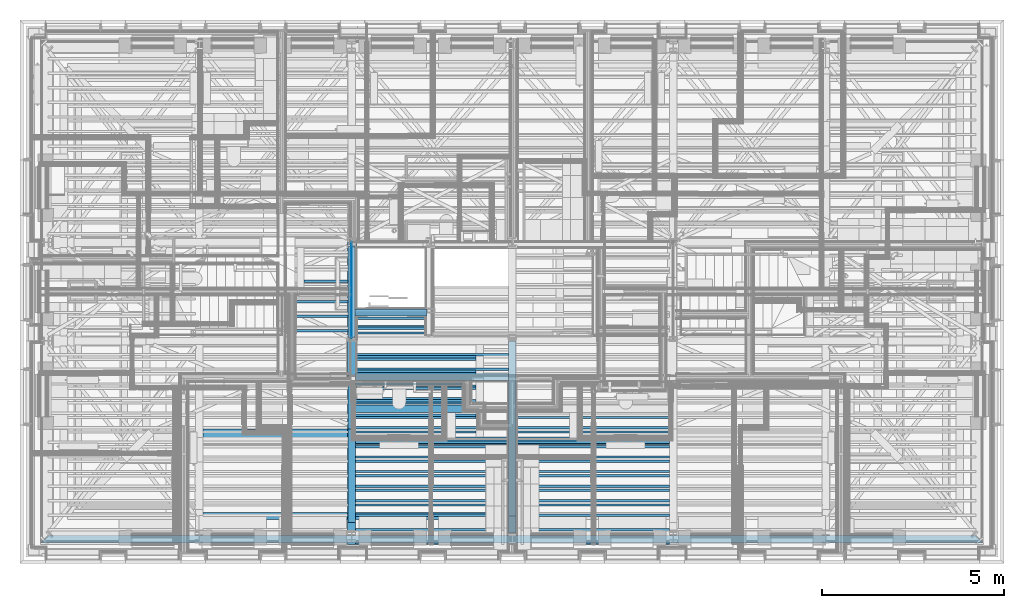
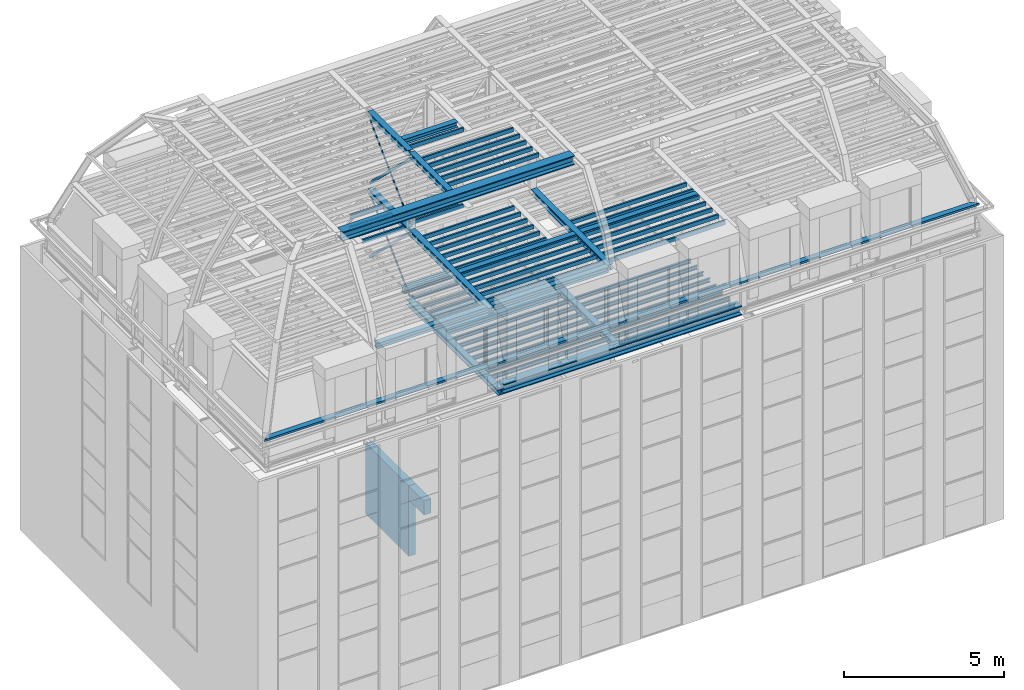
# One storey, part 5 of 183: 75 beams.
"""IFC2X3 building model written with IfcOpenShell, lengths in metres."""

from ifc_helpers import new_model, entity, si_unit, converted_unit, derived_unit, money_unit, direction, frame, frame_2d, origin_with_axes, place, context, subcontext, project, spatial, polyline, rectangle, outline, extrude, clip, halfspace, material, type_object, element, save


model = new_model("IFC2X3")

# Units and contexts
model_context = context("Model", 3, precision=1e-05, world=origin_with_axes(), true_north=direction((0.0, 1.0)))
body_context = subcontext(model_context, "Body", "Model", "MODEL_VIEW", scale=1.0)
ifc_project = project(units=[si_unit("LENGTHUNIT", "METRE"), si_unit("AREAUNIT", "SQUARE_METRE"), si_unit("VOLUMEUNIT", "CUBIC_METRE"), si_unit("ABSORBEDDOSEUNIT", "GRAY"), si_unit("AMOUNTOFSUBSTANCEUNIT", "MOLE"), si_unit("DOSEEQUIVALENTUNIT", "SIEVERT"), si_unit("ELECTRICCAPACITANCEUNIT", "FARAD"), si_unit("ELECTRICCHARGEUNIT", "COULOMB"), si_unit("ELECTRICCONDUCTANCEUNIT", "SIEMENS"), si_unit("ELECTRICCURRENTUNIT", "AMPERE"), si_unit("ELECTRICRESISTANCEUNIT", "OHM"), si_unit("ELECTRICVOLTAGEUNIT", "VOLT"), si_unit("ENERGYUNIT", "JOULE"), si_unit("FORCEUNIT", "NEWTON"), si_unit("FREQUENCYUNIT", "HERTZ"), si_unit("ILLUMINANCEUNIT", "LUX"), si_unit("INDUCTANCEUNIT", "HENRY"), si_unit("LUMINOUSFLUXUNIT", "LUMEN"), si_unit("LUMINOUSINTENSITYUNIT", "CANDELA"), si_unit("MAGNETICFLUXDENSITYUNIT", "TESLA"), si_unit("MAGNETICFLUXUNIT", "WEBER"), si_unit("MASSUNIT", "GRAM"), converted_unit("PLANEANGLEUNIT", "degree", entity("IfcReal", 0.0174532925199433), si_unit("PLANEANGLEUNIT", "RADIAN"), dimensions=[0, 0, 0, 0, 0, 0, 0]), si_unit("POWERUNIT", "WATT"), si_unit("PRESSUREUNIT", "PASCAL"), si_unit("RADIOACTIVITYUNIT", "BECQUEREL"), si_unit("SOLIDANGLEUNIT", "STERADIAN"), si_unit("THERMODYNAMICTEMPERATUREUNIT", "KELVIN"), si_unit("TIMEUNIT", "SECOND"), derived_unit("ACCELERATIONUNIT", [(si_unit("LENGTHUNIT", "METRE"), 1), (si_unit("TIMEUNIT", "SECOND"), -2)]), derived_unit("ANGULARVELOCITYUNIT", [(converted_unit("PLANEANGLEUNIT", "degree", entity("IfcReal", 0.0174532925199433), si_unit("PLANEANGLEUNIT", "RADIAN"), dimensions=[0, 0, 0, 0, 0, 0, 0]), 1), (si_unit("TIMEUNIT", "SECOND"), -1)]), derived_unit("CURVATUREUNIT", [(converted_unit("PLANEANGLEUNIT", "degree", entity("IfcReal", 0.0174532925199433), si_unit("PLANEANGLEUNIT", "RADIAN"), dimensions=[0, 0, 0, 0, 0, 0, 0]), 1), (si_unit("LENGTHUNIT", "METRE"), -1)]), derived_unit("DYNAMICVISCOSITYUNIT", [(si_unit("PRESSUREUNIT", "PASCAL"), 1), (si_unit("TIMEUNIT", "SECOND"), 1)]), derived_unit("HEATFLUXDENSITYUNIT", [(si_unit("POWERUNIT", "WATT"), 1), (si_unit("LENGTHUNIT", "METRE"), -2)]), derived_unit("HEATINGVALUEUNIT", [(si_unit("ENERGYUNIT", "JOULE"), 1), (si_unit("MASSUNIT", "GRAM"), -1)]), derived_unit("INTEGERCOUNTRATEUNIT", [(si_unit("TIMEUNIT", "SECOND"), -1)]), derived_unit("IONCONCENTRATIONUNIT", [(si_unit("MASSUNIT", "GRAM"), 1), (si_unit("VOLUMEUNIT", "CUBIC_METRE"), -1)]), derived_unit("ISOTHERMALMOISTURECAPACITYUNIT", [(si_unit("VOLUMEUNIT", "CUBIC_METRE"), 1), (si_unit("MASSUNIT", "GRAM"), -1)]), derived_unit("KINEMATICVISCOSITYUNIT", [(si_unit("AREAUNIT", "SQUARE_METRE"), 1), (si_unit("TIMEUNIT", "SECOND"), -1)]), derived_unit("LINEARFORCEUNIT", [(si_unit("FORCEUNIT", "NEWTON"), 1), (si_unit("LENGTHUNIT", "METRE"), -1)]), derived_unit("LINEARMOMENTUNIT", [(si_unit("FORCEUNIT", "NEWTON"), 1), (si_unit("LENGTHUNIT", "METRE"), -1)]), derived_unit("LINEARSTIFFNESSUNIT", [(si_unit("FORCEUNIT", "NEWTON"), 1), (si_unit("LENGTHUNIT", "METRE"), -1)]), derived_unit("LINEARVELOCITYUNIT", [(si_unit("LENGTHUNIT", "METRE"), 1), (si_unit("TIMEUNIT", "SECOND"), -1)]), derived_unit("LUMINOUSINTENSITYDISTRIBUTIONUNIT", [(si_unit("LUMINOUSINTENSITYUNIT", "CANDELA"), 1), (si_unit("LUMINOUSFLUXUNIT", "LUMEN"), -1)]), derived_unit("MASSDENSITYUNIT", [(si_unit("MASSUNIT", "GRAM"), 1), (si_unit("VOLUMEUNIT", "CUBIC_METRE"), -1)]), derived_unit("MASSFLOWRATEUNIT", [(si_unit("MASSUNIT", "GRAM"), 1), (si_unit("TIMEUNIT", "SECOND"), -1)]), derived_unit("MASSPERLENGTHUNIT", [(si_unit("MASSUNIT", "GRAM"), 1), (si_unit("LENGTHUNIT", "METRE"), -1)]), derived_unit("MODULUSOFELASTICITYUNIT", [(si_unit("FORCEUNIT", "NEWTON"), 1), (si_unit("AREAUNIT", "SQUARE_METRE"), -1)]), derived_unit("MODULUSOFLINEARSUBGRADEREACTIONUNIT", [(si_unit("FORCEUNIT", "NEWTON"), 1), (si_unit("LENGTHUNIT", "METRE"), -2)]), derived_unit("MODULUSOFROTATIONALSUBGRADEREACTIONUNIT", [(si_unit("FORCEUNIT", "NEWTON"), 1), (si_unit("LENGTHUNIT", "METRE"), 1)]), derived_unit("MODULUSOFSUBGRADEREACTIONUNIT", [(si_unit("FORCEUNIT", "NEWTON"), 1), (si_unit("VOLUMEUNIT", "CUBIC_METRE"), -1)]), derived_unit("MOISTUREDIFFUSIVITYUNIT", [(si_unit("VOLUMEUNIT", "CUBIC_METRE"), 1), (si_unit("TIMEUNIT", "SECOND"), -1)]), derived_unit("MOLECULARWEIGHTUNIT", [(si_unit("MASSUNIT", "GRAM"), 1), (si_unit("AMOUNTOFSUBSTANCEUNIT", "MOLE"), -1)]), derived_unit("PLANARFORCEUNIT", [(si_unit("FORCEUNIT", "NEWTON"), 1), (si_unit("LENGTHUNIT", "METRE"), -2)]), derived_unit("ROTATIONALFREQUENCYUNIT", [(si_unit("TIMEUNIT", "SECOND"), -1)]), derived_unit("ROTATIONALMASSUNIT", [(si_unit("MASSUNIT", "GRAM"), 1), (si_unit("LENGTHUNIT", "METRE"), 2)]), derived_unit("ROTATIONALSTIFFNESSUNIT", [(si_unit("FORCEUNIT", "NEWTON"), 1), (si_unit("LENGTHUNIT", "METRE"), 1), (converted_unit("PLANEANGLEUNIT", "degree", entity("IfcReal", 0.0174532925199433), si_unit("PLANEANGLEUNIT", "RADIAN"), dimensions=[0, 0, 0, 0, 0, 0, 0]), -1)]), derived_unit("SECTIONAREAINTEGRALUNIT", [(si_unit("LENGTHUNIT", "METRE"), 5)]), derived_unit("SECTIONMODULUSUNIT", [(si_unit("LENGTHUNIT", "METRE"), 3)]), derived_unit("SHEARMODULUSUNIT", [(si_unit("FORCEUNIT", "NEWTON"), 1), (si_unit("AREAUNIT", "SQUARE_METRE"), -1)]), derived_unit("SOUNDPOWERUNIT", [(si_unit("ENERGYUNIT", "JOULE"), 1), (si_unit("TIMEUNIT", "SECOND"), -1)]), derived_unit("SPECIFICHEATCAPACITYUNIT", [(si_unit("FORCEUNIT", "NEWTON"), 1), (si_unit("MASSUNIT", "GRAM"), -1), (si_unit("THERMODYNAMICTEMPERATUREUNIT", "KELVIN"), -1)]), derived_unit("TEMPERATUREGRADIENTUNIT", [(si_unit("THERMODYNAMICTEMPERATUREUNIT", "KELVIN"), 1), (si_unit("LENGTHUNIT", "METRE"), -1)]), derived_unit("THERMALADMITTANCEUNIT", [(si_unit("POWERUNIT", "WATT"), 1), (si_unit("AREAUNIT", "SQUARE_METRE"), -1), (si_unit("THERMODYNAMICTEMPERATUREUNIT", "KELVIN"), -1)]), derived_unit("THERMALCONDUCTANCEUNIT", [(si_unit("POWERUNIT", "WATT"), 1), (si_unit("LENGTHUNIT", "METRE"), -1), (si_unit("THERMODYNAMICTEMPERATUREUNIT", "KELVIN"), -1)]), derived_unit("THERMALEXPANSIONCOEFFICIENTUNIT", [(si_unit("THERMODYNAMICTEMPERATUREUNIT", "KELVIN"), -1)]), derived_unit("THERMALRESISTANCEUNIT", [(si_unit("AREAUNIT", "SQUARE_METRE"), 1), (si_unit("POWERUNIT", "WATT"), -1)]), derived_unit("THERMALTRANSMITTANCEUNIT", [(si_unit("POWERUNIT", "WATT"), 1), (si_unit("AREAUNIT", "SQUARE_METRE"), -1), (si_unit("THERMODYNAMICTEMPERATUREUNIT", "KELVIN"), -1)]), derived_unit("TORQUEUNIT", [(si_unit("FORCEUNIT", "NEWTON"), 1), (si_unit("LENGTHUNIT", "METRE"), 1)]), derived_unit("VAPORPERMEABILITYUNIT", [(si_unit("MASSUNIT", "GRAM"), 1), (si_unit("TIMEUNIT", "SECOND"), -1)]), derived_unit("VOLUMETRICFLOWRATEUNIT", [(si_unit("VOLUMEUNIT", "CUBIC_METRE"), 1), (si_unit("TIMEUNIT", "SECOND"), -1)]), derived_unit("WARPINGCONSTANTUNIT", [(si_unit("LENGTHUNIT", "METRE"), 6)]), derived_unit("WARPINGMOMENTUNIT", [(si_unit("FORCEUNIT", "NEWTON"), 1), (si_unit("LENGTHUNIT", "METRE"), 2)]), money_unit("GBP")], contexts=[model_context])

# Site, building, storey
site_placement = place(None, origin_with_axes())
site = spatial("IfcSite", under=ifc_project, at=site_placement, Name="Site", CompositionType="ELEMENT")
building_placement = place(site_placement, origin_with_axes())
building = spatial("IfcBuilding", under=site, at=building_placement, Name="Building01", CompositionType="ELEMENT")
storey_placement = place(building_placement, frame((0.0, 0.0, 5.15), z_axis=(0.0, 0.0, 1.0), x_axis=(1.0, 0.0, 0.0)))
storey = spatial("IfcBuildingStorey", under=building, at=storey_placement, Name="1F", CompositionType="ELEMENT", Elevation=5.15)

# Beams
ifc_material_1 = material(Name="A_BSUK_Beams_Steel")
beam_type_1 = type_object("IfcBeamType", Name="A-Beams-Steel", PredefinedType="BEAM")
beam_1_placement = place(storey_placement, frame((8.98545, 6.2592, 9.5078), z_axis=(0.0, -1.0, 0.0), x_axis=(1.0, 0.0, 0.0)))
element("IfcBeam", 1, at=beam_1_placement, inside=storey, type_object=beam_type_1, material=ifc_material_1, Name="4F", ObjectType="A-Beams-Steel", context=body_context, shape_type="SweptSolid", body=[
    extrude(outline(polyline([(0.2091, 0.0), (0.2091, 0.0205), (0.1109, 0.0205), (0.1109, 0.2017), (0.2091, 0.2017), (0.2091, 0.2222), (0.0, 0.2222), (0.0, 0.2017), (0.0982, 0.2017), (0.0982, 0.0205), (0.0, 0.0205), (0.0, 0.0), (0.2091, 0.0)])), origin_with_axes(), (0.0, 0.0, 1.0), 5.7392),
])
beam_2_placement = place(storey_placement, frame((13.39545, 5.9408, 9.5078), z_axis=(0.0, -1.0, 0.0), x_axis=(1.0, 0.0, 0.0)))
element("IfcBeam", 2, at=beam_2_placement, inside=storey, type_object=beam_type_1, material=ifc_material_1, Name="4F", ObjectType="A-Beams-Steel", context=body_context, shape_type="SweptSolid", body=[
    extrude(outline(polyline([(0.2091, 0.0), (0.2091, 0.0205), (0.1109, 0.0205), (0.1109, 0.2017), (0.2091, 0.2017), (0.2091, 0.2222), (0.0, 0.2222), (0.0, 0.2017), (0.0982, 0.2017), (0.0982, 0.0205), (0.0, 0.0205), (0.0, 0.0), (0.2091, 0.0)])), origin_with_axes(), (0.0, 0.0, 1.0), 5.1024),
])
beam_3_placement = place(storey_placement, frame((9.1918, 6.7782, 9.5268), z_axis=(1.0, 0.0, 0.0), x_axis=(0.0, 1.0, 0.0)))
element("IfcBeam", 3, at=beam_3_placement, inside=storey, type_object=beam_type_1, material=ifc_material_1, Name="4F", ObjectType="A-Beams-Steel", context=body_context, shape_type="SweptSolid", body=[
    extrude(outline(polyline([(0.2036, 0.0), (0.2036, 0.011), (0.1054, 0.011), (0.1054, 0.1922), (0.2036, 0.1922), (0.2036, 0.2032), (0.0, 0.2032), (0.0, 0.1922), (0.0982, 0.1922), (0.0982, 0.011), (0.0, 0.011), (0.0, 0.0), (0.2036, 0.0)])), origin_with_axes(), (0.0, 0.0, 1.0), 1.9664),
])
for number, where, z_axis, x_axis, name in (
    (4, (9.19455, 5.0182, 9.5268), (1.0, 0.0, 0.0), (0.0, 1.0, 0.0), "4F"),
    (5, (9.19455, 4.1382, 9.5268), (1.0, 0.0, 0.0), (0.0, 1.0, 0.0), "4F"),
):
    element("IfcBeam", number, at=place(storey_placement, frame(where, z_axis=z_axis, x_axis=x_axis)), inside=storey, type_object=beam_type_1, material=ifc_material_1, Name=name, ObjectType="A-Beams-Steel", context=body_context, shape_type="SweptSolid", body=[
        extrude(outline(polyline([(0.2036, 0.0), (0.2036, 0.011), (0.1054, 0.011), (0.1054, 0.1922), (0.2036, 0.1922), (0.2036, 0.2032), (0.0, 0.2032), (0.0, 0.1922), (0.0982, 0.1922), (0.0982, 0.011), (0.0, 0.011), (0.0, 0.0), (0.2036, 0.0)])), origin_with_axes(), (0.0, 0.0, 1.0), 4.2009),
    ])
beam_4_placement = place(storey_placement, frame((9.19455, 0.52, 9.5078), z_axis=(1.0, 0.0, 0.0), x_axis=(0.0, 1.0, 0.0)))
element("IfcBeam", 6, at=beam_4_placement, inside=storey, type_object=beam_type_1, material=ifc_material_1, Name="4F", ObjectType="A-Beams-Steel", context=body_context, shape_type="SweptSolid", body=[
    extrude(outline(polyline([(0.3184, 0.0), (0.3184, 0.0377), (0.1707, 0.0377), (0.1707, 0.3148), (0.3184, 0.3148), (0.3184, 0.3525), (0.0, 0.3525), (0.0, 0.3148), (0.1477, 0.3148), (0.1477, 0.0377), (0.0, 0.0377), (0.0, 0.0), (0.3184, 0.0)])), origin_with_axes(), (0.0, 0.0, 1.0), 8.6109),
])
beam_5_placement = place(storey_placement, frame((5.0132, 1.1982, 12.2768), z_axis=(1.0, 0.0, 0.0), x_axis=(0.0, 1.0, 0.0)))
element("IfcBeam", 7, at=beam_5_placement, inside=storey, type_object=beam_type_1, material=ifc_material_1, Name="5F", ObjectType="A-Beams-Steel", context=body_context, shape_type="SweptSolid", body=[
    extrude(outline(polyline([(0.2036, 0.0), (0.2036, 0.011), (0.1054, 0.011), (0.1054, 0.1922), (0.2036, 0.1922), (0.2036, 0.2032), (0.0, 0.2032), (0.0, 0.1922), (0.0982, 0.1922), (0.0982, 0.011), (0.0, 0.011), (0.0, 0.0), (0.2036, 0.0)])), origin_with_axes(), (0.0, 0.0, 1.0), 8.3836),
])
beam_6_placement = place(storey_placement, frame((8.9868, 6.1, 12.2642), z_axis=(0.0, -1.0, 0.0), x_axis=(1.0, 0.0, 0.0)))
element("IfcBeam", 8, at=beam_6_placement, inside=storey, type_object=beam_type_1, material=ifc_material_1, Name="5F", ObjectType="A-Beams-Steel", context=body_context, shape_type="SweptSolid", body=[
    extrude(outline(polyline([(0.2064, 0.0), (0.2064, 0.0173), (0.1082, 0.0173), (0.1082, 0.1985), (0.2064, 0.1985), (0.2064, 0.2158), (0.0, 0.2158), (0.0, 0.1985), (0.0982, 0.1985), (0.0982, 0.0173), (0.0, 0.0173), (0.0, 0.0), (0.2064, 0.0)])), origin_with_axes(), (0.0, 0.0, 1.0), 4.980311),
])
beam_7_placement = place(storey_placement, frame((13.3968, 6.1, 12.2642), z_axis=(0.0, -1.0, 0.0), x_axis=(1.0, 0.0, 0.0)))
element("IfcBeam", 9, at=beam_7_placement, inside=storey, type_object=beam_type_1, material=ifc_material_1, Name="5F", ObjectType="A-Beams-Steel", context=body_context, shape_type="SweptSolid", body=[
    extrude(outline(polyline([(0.2064, 0.0), (0.2064, 0.0173), (0.1082, 0.0173), (0.1082, 0.1985), (0.2064, 0.1985), (0.2064, 0.2158), (0.0, 0.2158), (0.0, 0.1985), (0.0982, 0.1985), (0.0982, 0.0173), (0.0, 0.0173), (0.0, 0.0), (0.2064, 0.0)])), origin_with_axes(), (0.0, 0.0, 1.0), 4.7982),
])
beam_8_placement = place(storey_placement, frame((8.9882, 8.6857, 12.2768), z_axis=(0.0, -1.0, 0.0), x_axis=(1.0, 0.0, 0.0)))
element("IfcBeam", 10, at=beam_8_placement, inside=storey, type_object=beam_type_1, material=ifc_material_1, Name="5F", ObjectType="A-Beams-Steel", context=body_context, shape_type="SweptSolid", body=[
    extrude(outline(polyline([(0.2036, 0.0), (0.2036, 0.011), (0.1054, 0.011), (0.1054, 0.1922), (0.2036, 0.1922), (0.2036, 0.2032), (0.0, 0.2032), (0.0, 0.1922), (0.0982, 0.1922), (0.0982, 0.011), (0.0, 0.011), (0.0, 0.0), (0.2036, 0.0)])), origin_with_axes(), (0.0, 0.0, 1.0), 2.4857),
])
beam_9_placement = place(storey_placement, frame((9.1918, 6.7782, 12.2768), z_axis=(1.0, 0.0, 0.0), x_axis=(0.0, 1.0, 0.0)))
element("IfcBeam", 11, at=beam_9_placement, inside=storey, type_object=beam_type_1, material=ifc_material_1, Name="5F", ObjectType="A-Beams-Steel", context=body_context, shape_type="SweptSolid", body=[
    extrude(outline(polyline([(0.2036, 0.0), (0.2036, 0.011), (0.1054, 0.011), (0.1054, 0.1922), (0.2036, 0.1922), (0.2036, 0.2032), (0.0, 0.2032), (0.0, 0.1922), (0.0982, 0.1922), (0.0982, 0.011), (0.0, 0.011), (0.0, 0.0), (0.2036, 0.0)])), origin_with_axes(), (0.0, 0.0, 1.0), 1.9682),
])
beam_10_placement = place(storey_placement, frame((13.6032, 3.2582, 12.2768), z_axis=(1.0, 0.0, 0.0), x_axis=(0.0, 1.0, 0.0)))
element("IfcBeam", 12, at=beam_10_placement, inside=storey, type_object=beam_type_1, material=ifc_material_1, Name="5F", ObjectType="A-Beams-Steel", context=body_context, shape_type="SweptSolid", body=[
    extrude(outline(polyline([(0.2036, 0.0), (0.2036, 0.011), (0.1054, 0.011), (0.1054, 0.1922), (0.2036, 0.1922), (0.2036, 0.2032), (0.0, 0.2032), (0.0, 0.1922), (0.0982, 0.1922), (0.0982, 0.011), (0.0, 0.011), (0.0, 0.0), (0.2036, 0.0)])), origin_with_axes(), (0.0, 0.0, 1.0), 4.2036),
])
beam_11_placement = place(storey_placement, frame((9.1932, 3.2582, 12.2768), z_axis=(1.0, 0.0, 0.0), x_axis=(0.0, 1.0, 0.0)))
element("IfcBeam", 13, at=beam_11_placement, inside=storey, type_object=beam_type_1, material=ifc_material_1, Name="5F", ObjectType="A-Beams-Steel", context=body_context, shape_type="SweptSolid", body=[
    extrude(outline(polyline([(0.2036, 0.0), (0.2036, 0.011), (0.1054, 0.011), (0.1054, 0.1922), (0.2036, 0.1922), (0.2036, 0.2032), (0.0, 0.2032), (0.0, 0.1922), (0.0982, 0.1922), (0.0982, 0.011), (0.0, 0.011), (0.0, 0.0), (0.2036, 0.0)])), origin_with_axes(), (0.0, 0.0, 1.0), 4.203576),
])
beam_12_placement = place(storey_placement, frame((5.011822, 3.3608, 15.0775), z_axis=(1.0, 0.0, 0.0), x_axis=(0.0, 1.0, 0.0)))
element("IfcBeam", 14, at=beam_12_placement, inside=storey, type_object=beam_type_1, material=ifc_material_1, Name="RP", ObjectType="A-Beams-Steel", context=body_context, shape_type="SweptSolid", body=[
    extrude(outline(polyline([(0.3184, 0.0), (0.3184, 0.0377), (0.1707, 0.0377), (0.1707, 0.3148), (0.3184, 0.3148), (0.3184, 0.3525), (0.0, 0.3525), (0.0, 0.3148), (0.1477, 0.3148), (0.1477, 0.0377), (0.0, 0.0377), (0.0, 0.0), (0.3184, 0.0)])), origin_with_axes(), (0.0, 0.0, 1.0), 8.386378),
])
beam_13_placement = place(storey_placement, frame((8.9882, 8.6968, 15.2268), z_axis=(0.0, -1.0, 0.0), x_axis=(1.0, 0.0, 0.0)))
element("IfcBeam", 15, at=beam_13_placement, inside=storey, type_object=beam_type_1, material=ifc_material_1, Name="RP", ObjectType="A-Beams-Steel", context=body_context, shape_type="SweptSolid", body=[
    extrude(outline(polyline([(0.2036, 0.0), (0.2036, 0.011), (0.1054, 0.011), (0.1054, 0.1922), (0.2036, 0.1922), (0.2036, 0.2032), (0.0, 0.2032), (0.0, 0.1922), (0.0982, 0.1922), (0.0982, 0.011), (0.0, 0.011), (0.0, 0.0), (0.2036, 0.0)])), origin_with_axes(), (0.0, 0.0, 1.0), 2.4968),
])
beam_14_placement = place(storey_placement, frame((8.9882, 6.1, 15.2268), z_axis=(0.0, -1.0, 0.0), x_axis=(1.0, 0.0, 0.0)))
element("IfcBeam", 16, at=beam_14_placement, inside=storey, type_object=beam_type_1, material=ifc_material_1, Name="RP", ObjectType="A-Beams-Steel", context=body_context, shape_type="SweptSolid", body=[
    extrude(outline(polyline([(0.2036, 0.0), (0.2036, 0.011), (0.1054, 0.011), (0.1054, 0.1922), (0.2036, 0.1922), (0.2036, 0.2032), (0.0, 0.2032), (0.0, 0.1922), (0.0982, 0.1922), (0.0982, 0.011), (0.0, 0.011), (0.0, 0.0), (0.2036, 0.0)])), origin_with_axes(), (0.0, 0.0, 1.0), 2.4208),
])
beam_15_placement = place(storey_placement, frame((9.1918, 6.7782, 15.2268), z_axis=(1.0, 0.0, 0.0), x_axis=(0.0, 1.0, 0.0)))
element("IfcBeam", 17, at=beam_15_placement, inside=storey, type_object=beam_type_1, material=ifc_material_1, Name="RP", ObjectType="A-Beams-Steel", context=body_context, shape_type="SweptSolid", body=[
    extrude(outline(polyline([(0.2036, 0.0), (0.2036, 0.011), (0.1054, 0.011), (0.1054, 0.1922), (0.2036, 0.1922), (0.2036, 0.2032), (0.0, 0.2032), (0.0, 0.1922), (0.0982, 0.1922), (0.0982, 0.011), (0.0, 0.011), (0.0, 0.0), (0.2036, 0.0)])), origin_with_axes(), (0.0, 0.0, 1.0), 1.9664),
])
beam_16_placement = place(storey_placement, frame((9.1, 8.75159, 9.719864), z_axis=(0.0, -0.71744141, 0.69661885), x_axis=(0.0, 0.69661885, 0.71744141)))
element("IfcBeam", 18, at=beam_16_placement, inside=storey, type_object=beam_type_1, material=ifc_material_1, Name="4F", ObjectType="A-Beams-Steel", context=body_context, shape_type="SweptSolid", body=[
    extrude(rectangle(XDim=0.01, YDim=0.1, at=frame_2d((0.05, 0.005), x_axis=(0.0, 1.0))), origin_with_axes(), (0.0, 0.0, 1.0), 3.594784),
])
beam_17_placement = place(storey_placement, frame((9.09, 6.184843, 9.844613), z_axis=(0.0, 0.71831265, 0.69572044), x_axis=(0.0, 0.69572044, -0.71831265)))
element("IfcBeam", 19, at=beam_17_placement, inside=storey, type_object=beam_type_1, material=ifc_material_1, Name="4F", ObjectType="A-Beams-Steel", context=body_context, shape_type="SweptSolid", body=[
    extrude(rectangle(XDim=0.01, YDim=0.1, at=frame_2d((0.05, 0.005), x_axis=(0.0, 1.0))), origin_with_axes(), (0.0, 0.0, 1.0), 3.50123),
])
beam_18_placement = place(storey_placement, frame((9.1, 8.726601, 12.569711), z_axis=(0.0, -0.71744141, 0.69661885), x_axis=(0.0, 0.69661885, 0.71744141)))
element("IfcBeam", 20, at=beam_18_placement, inside=storey, type_object=beam_type_1, material=ifc_material_1, Name="5F", ObjectType="A-Beams-Steel", context=body_context, shape_type="SweptSolid", body=[
    extrude(rectangle(XDim=0.01, YDim=0.1, at=frame_2d((0.05, 0.005), x_axis=(0.0, 1.0))), origin_with_axes(), (0.0, 0.0, 1.0), 3.559953),
])
beam_19_placement = place(storey_placement, frame((9.09, 6.184843, 12.670197), z_axis=(0.0, 0.71831265, 0.69572044), x_axis=(0.0, 0.69572044, -0.71831265)))
element("IfcBeam", 21, at=beam_19_placement, inside=storey, type_object=beam_type_1, material=ifc_material_1, Name="5F", ObjectType="A-Beams-Steel", context=body_context, shape_type="SweptSolid", body=[
    extrude(rectangle(XDim=0.01, YDim=0.1, at=frame_2d((0.05, 0.005), x_axis=(0.0, 1.0))), origin_with_axes(), (0.0, 0.0, 1.0), 3.50123),
])
beam_20_placement = place(storey_placement, frame((26.4136, 0.7613, 10.748931), z_axis=(-1.0, 0.0, 0.0), x_axis=(0.0, 0.0, -1.0)))
element("IfcBeam", 22, at=beam_20_placement, inside=storey, type_object=beam_type_1, material=ifc_material_1, Name="4F", ObjectType="A-Beams-Steel", context=body_context, shape_type="Clipping", body=[
    clip(clip(extrude(outline(polyline([(0.075, 0.0), (0.075, 0.012), (0.006, 0.012), (0.006, 0.188), (0.075, 0.188), (0.075, 0.2), (0.0, 0.2), (0.0, 0.0), (0.075, 0.0)])), origin_with_axes(), (0.0, 0.0, 1.0), 25.8472), halfspace(frame((0.0, 0.1, 0.1), z_axis=(0.0, 0.70710678, 0.70710678), x_axis=(-1.0, 0.0, 0.0)), True)), halfspace(frame((0.0, -12.8236, 12.8236), z_axis=(0.0, 0.70710678, -0.70710678), x_axis=(-1.0, 0.0, 0.0)), True)),
])
ifc_material_2 = material(Name="S_BSUK_Beams_PrecastConcrete")
beam_type_2 = type_object("IfcBeamType", Name="S-Beams-PrecastConcrete", PredefinedType="BEAM")
beam_21_placement = place(storey_placement, frame((8.975, 8.8, -0.01), z_axis=(0.0, -1.0, 0.0), x_axis=(1.0, 0.0, 0.0)))
element("IfcBeam", 23, at=beam_21_placement, inside=storey, type_object=beam_type_2, material=ifc_material_2, Name="S-Beams-PrecastConcrete", ObjectType="S-Beams-PrecastConcrete", context=body_context, shape_type="SweptSolid", body=[
    extrude(rectangle(XDim=2.7, YDim=0.25, at=frame_2d((0.125, 1.35), x_axis=(0.0, 1.0))), origin_with_axes(), (0.0, 0.0, 1.0), 2.7),
])
beam_22_placement = place(storey_placement, frame((8.975, 6.1, 2.142), z_axis=(0.0, -1.0, 0.0), x_axis=(1.0, 0.0, 0.0)))
element("IfcBeam", 24, at=beam_22_placement, inside=storey, type_object=beam_type_2, material=ifc_material_2, Name="S-Beams-PrecastConcrete", ObjectType="S-Beams-PrecastConcrete", context=body_context, shape_type="SweptSolid", body=[
    extrude(rectangle(XDim=0.548, YDim=0.25, at=frame_2d((0.125, 0.274), x_axis=(0.0, 1.0))), origin_with_axes(), (0.0, 0.0, 1.0), 0.95),
])
beam_type_3 = type_object("IfcBeamType", Name="SHE_A-Beams-Steel-Purlin_150m15", PredefinedType="BEAM")
for number, where, z_axis, x_axis, name in (
    (25, (17.80545, 0.952, 9.578), (-1.0, 0.0, 0.0), (0.0, -1.0, 0.0), "4F"),
    (26, (17.80545, 1.352, 9.578), (-1.0, 0.0, 0.0), (0.0, -1.0, 0.0), "4F"),
    (27, (17.80545, 1.752, 9.578), (-1.0, 0.0, 0.0), (0.0, -1.0, 0.0), "4F"),
    (28, (17.80545, 2.152, 9.578), (-1.0, 0.0, 0.0), (0.0, -1.0, 0.0), "4F"),
    (29, (17.80545, 2.552, 9.578), (-1.0, 0.0, 0.0), (0.0, -1.0, 0.0), "4F"),
    (30, (17.80545, 2.952, 9.578), (-1.0, 0.0, 0.0), (0.0, -1.0, 0.0), "4F"),
    (31, (17.80545, 3.352, 9.578), (-1.0, 0.0, 0.0), (0.0, -1.0, 0.0), "4F"),
    (32, (17.80545, 3.752, 9.578), (-1.0, 0.0, 0.0), (0.0, -1.0, 0.0), "4F"),
    (33, (13.39545, 0.952, 9.578), (-1.0, 0.0, 0.0), (0.0, -1.0, 0.0), "4F"),
    (34, (13.39545, 1.352, 9.578), (-1.0, 0.0, 0.0), (0.0, -1.0, 0.0), "4F"),
    (35, (13.39545, 1.752, 9.578), (-1.0, 0.0, 0.0), (0.0, -1.0, 0.0), "4F"),
    (36, (13.39545, 2.152, 9.578), (-1.0, 0.0, 0.0), (0.0, -1.0, 0.0), "4F"),
    (37, (13.39545, 2.552, 9.578), (-1.0, 0.0, 0.0), (0.0, -1.0, 0.0), "4F"),
    (38, (13.39545, 2.952, 9.578), (-1.0, 0.0, 0.0), (0.0, -1.0, 0.0), "4F"),
    (39, (13.39545, 3.352, 9.578), (-1.0, 0.0, 0.0), (0.0, -1.0, 0.0), "4F"),
    (40, (13.39545, 3.752, 9.578), (-1.0, 0.0, 0.0), (0.0, -1.0, 0.0), "4F"),
):
    element("IfcBeam", number, at=place(storey_placement, frame(where, z_axis=z_axis, x_axis=x_axis)), inside=storey, type_object=beam_type_3, material=ifc_material_1, Name=name, ObjectType="SHE_A-Beams-Steel-Purlin_150m15", context=body_context, shape_type="SweptSolid", body=[
        extrude(outline(polyline([(0.064, 0.0), (0.064, 0.0155), (0.0625, 0.0155), (0.0625, 0.0015), (0.0015, 0.0015), (0.0015, 0.1505), (0.0625, 0.1505), (0.0625, 0.1365), (0.064, 0.1365), (0.064, 0.152), (0.0, 0.152), (0.0, 0.0), (0.064, 0.0)])), origin_with_axes(), (0.0, 0.0, 1.0), 4.2009),
    ])
for number, where, z_axis, x_axis, name in (
    (41, (9.1932, 3.5698, 12.328), (1.0, 0.0, 0.0), (0.0, 1.0, 0.0), "5F"),
    (42, (9.1932, 3.9698, 12.328), (1.0, 0.0, 0.0), (0.0, 1.0, 0.0), "5F"),
    (43, (9.1932, 4.3698, 12.328), (1.0, 0.0, 0.0), (0.0, 1.0, 0.0), "5F"),
    (44, (9.1932, 4.7698, 12.328), (1.0, 0.0, 0.0), (0.0, 1.0, 0.0), "5F"),
    (45, (9.1932, 5.1698, 12.328), (1.0, 0.0, 0.0), (0.0, 1.0, 0.0), "5F"),
    (46, (9.1932, 5.5698, 12.328), (1.0, 0.0, 0.0), (0.0, 1.0, 0.0), "5F"),
):
    element("IfcBeam", number, at=place(storey_placement, frame(where, z_axis=z_axis, x_axis=x_axis)), inside=storey, type_object=beam_type_3, material=ifc_material_1, Name=name, ObjectType="SHE_A-Beams-Steel-Purlin_150m15", context=body_context, shape_type="SweptSolid", body=[
        extrude(outline(polyline([(0.064, 0.0), (0.064, 0.0155), (0.0625, 0.0155), (0.0625, 0.0015), (0.0015, 0.0015), (0.0015, 0.1505), (0.0625, 0.1505), (0.0625, 0.1365), (0.064, 0.1365), (0.064, 0.152), (0.0, 0.152), (0.0, 0.0), (0.064, 0.0)])), origin_with_axes(), (0.0, 0.0, 1.0), 3.305),
    ])
for number, where, z_axis, x_axis, name in (
    (47, (12.1182, 4.552, 9.578), (-1.0, 0.0, 0.0), (0.0, -1.0, 0.0), "4F"),
    (48, (12.1182, 4.952, 9.578), (-1.0, 0.0, 0.0), (0.0, -1.0, 0.0), "4F"),
):
    element("IfcBeam", number, at=place(storey_placement, frame(where, z_axis=z_axis, x_axis=x_axis)), inside=storey, type_object=beam_type_3, material=ifc_material_1, Name=name, ObjectType="SHE_A-Beams-Steel-Purlin_150m15", context=body_context, shape_type="SweptSolid", body=[
        extrude(outline(polyline([(0.064, 0.0), (0.064, 0.0155), (0.0625, 0.0155), (0.0625, 0.0015), (0.0015, 0.0015), (0.0015, 0.1505), (0.0625, 0.1505), (0.0625, 0.1365), (0.064, 0.1365), (0.064, 0.152), (0.0, 0.152), (0.0, 0.0), (0.064, 0.0)])), origin_with_axes(), (0.0, 0.0, 1.0), 2.92365),
    ])
for number, where, z_axis, x_axis, name in (
    (49, (13.39545, 5.752, 9.578), (-1.0, 0.0, 0.0), (0.0, -1.0, 0.0), "4F"),
    (50, (13.39545, 5.352, 9.578), (-1.0, 0.0, 0.0), (0.0, -1.0, 0.0), "4F"),
):
    element("IfcBeam", number, at=place(storey_placement, frame(where, z_axis=z_axis, x_axis=x_axis)), inside=storey, type_object=beam_type_3, material=ifc_material_1, Name=name, ObjectType="SHE_A-Beams-Steel-Purlin_150m15", context=body_context, shape_type="SweptSolid", body=[
        extrude(outline(polyline([(0.064, 0.0), (0.064, 0.0155), (0.0625, 0.0155), (0.0625, 0.0015), (0.0015, 0.0015), (0.0015, 0.1505), (0.0625, 0.1505), (0.0625, 0.1365), (0.064, 0.1365), (0.064, 0.152), (0.0, 0.152), (0.0, 0.0), (0.064, 0.0)])), origin_with_axes(), (0.0, 0.0, 1.0), 4.2009),
    ])
for number, where, z_axis, x_axis, name in (
    (51, (11.1582, 6.3507, 9.578), (-1.0, 0.0, 0.0), (0.0, -1.0, 0.0), "4F"),
    (52, (11.1582, 6.7507, 9.578), (-1.0, 0.0, 0.0), (0.0, -1.0, 0.0), "4F"),
):
    element("IfcBeam", number, at=place(storey_placement, frame(where, z_axis=z_axis, x_axis=x_axis)), inside=storey, type_object=beam_type_3, material=ifc_material_1, Name=name, ObjectType="SHE_A-Beams-Steel-Purlin_150m15", context=body_context, shape_type="SweptSolid", body=[
        extrude(outline(polyline([(0.064, 0.0), (0.064, 0.0155), (0.0625, 0.0155), (0.0625, 0.0015), (0.0015, 0.0015), (0.0015, 0.1505), (0.0625, 0.1505), (0.0625, 0.1365), (0.064, 0.1365), (0.064, 0.152), (0.0, 0.152), (0.0, 0.0), (0.064, 0.0)])), origin_with_axes(), (0.0, 0.0, 1.0), 1.96365),
    ])
for number, where, z_axis, x_axis, name in (
    (53, (9.1932, 3.1698, 12.328), (1.0, 0.0, 0.0), (0.0, 1.0, 0.0), "5F"),
    (54, (9.1932, 2.7698, 12.328), (1.0, 0.0, 0.0), (0.0, 1.0, 0.0), "5F"),
    (55, (9.1932, 2.3698, 12.328), (1.0, 0.0, 0.0), (0.0, 1.0, 0.0), "5F"),
    (56, (9.1932, 1.9698, 12.328), (1.0, 0.0, 0.0), (0.0, 1.0, 0.0), "5F"),
    (57, (9.1932, 1.5698, 12.328), (1.0, 0.0, 0.0), (0.0, 1.0, 0.0), "5F"),
):
    element("IfcBeam", number, at=place(storey_placement, frame(where, z_axis=z_axis, x_axis=x_axis)), inside=storey, type_object=beam_type_3, material=ifc_material_1, Name=name, ObjectType="SHE_A-Beams-Steel-Purlin_150m15", context=body_context, shape_type="SweptSolid", body=[
        extrude(outline(polyline([(0.064, 0.0), (0.064, 0.0155), (0.0625, 0.0155), (0.0625, 0.0015), (0.0015, 0.0015), (0.0015, 0.1505), (0.0625, 0.1505), (0.0625, 0.1365), (0.064, 0.1365), (0.064, 0.152), (0.0, 0.152), (0.0, 0.0), (0.064, 0.0)])), origin_with_axes(), (0.0, 0.0, 1.0), 4.203576),
    ])
for number, where, z_axis, x_axis, name in (
    (58, (13.6032, 3.1698, 12.328), (1.0, 0.0, 0.0), (0.0, 1.0, 0.0), "5F"),
    (59, (13.6032, 3.5698, 12.328), (1.0, 0.0, 0.0), (0.0, 1.0, 0.0), "5F"),
    (60, (13.6032, 3.9698, 12.328), (1.0, 0.0, 0.0), (0.0, 1.0, 0.0), "5F"),
    (61, (13.6032, 1.5698, 12.328), (1.0, 0.0, 0.0), (0.0, 1.0, 0.0), "5F"),
    (62, (13.6032, 1.9698, 12.328), (1.0, 0.0, 0.0), (0.0, 1.0, 0.0), "5F"),
    (63, (13.6032, 2.3698, 12.328), (1.0, 0.0, 0.0), (0.0, 1.0, 0.0), "5F"),
    (64, (13.6032, 2.7698, 12.328), (1.0, 0.0, 0.0), (0.0, 1.0, 0.0), "5F"),
):
    element("IfcBeam", number, at=place(storey_placement, frame(where, z_axis=z_axis, x_axis=x_axis)), inside=storey, type_object=beam_type_3, material=ifc_material_1, Name=name, ObjectType="SHE_A-Beams-Steel-Purlin_150m15", context=body_context, shape_type="SweptSolid", body=[
        extrude(outline(polyline([(0.064, 0.0), (0.064, 0.0155), (0.0625, 0.0155), (0.0625, 0.0015), (0.0015, 0.0015), (0.0015, 0.1505), (0.0625, 0.1505), (0.0625, 0.1365), (0.064, 0.1365), (0.064, 0.152), (0.0, 0.152), (0.0, 0.0), (0.064, 0.0)])), origin_with_axes(), (0.0, 0.0, 1.0), 4.2036),
    ])
beam_23_placement = place(storey_placement, frame((9.1918, 6.458, 12.328), z_axis=(1.0, 0.0, 0.0), x_axis=(0.0, 0.0, 1.0)))
element("IfcBeam", 65, at=beam_23_placement, inside=storey, type_object=beam_type_3, material=ifc_material_1, Name="5F", ObjectType="SHE_A-Beams-Steel-Purlin_150m15", context=body_context, shape_type="SweptSolid", body=[
    extrude(outline(polyline([(0.152, 0.0), (0.152, -0.064), (0.1365, -0.064), (0.1365, -0.0625), (0.1505, -0.0625), (0.1505, -0.0015), (0.0015, -0.0015), (0.0015, -0.0625), (0.0155, -0.0625), (0.0155, -0.064), (0.0, -0.064), (0.0, 0.0), (0.152, 0.0)])), origin_with_axes(), (0.0, 0.0, 1.0), 1.9664),
])
for number, where, z_axis, x_axis, name in (
    (66, (7.4418, 6.3434, 12.328), (1.0, 0.0, 0.0), (0.0, 0.0, 1.0), "5F"),
    (67, (7.4418, 6.7434, 12.328), (1.0, 0.0, 0.0), (0.0, 0.0, 1.0), "5F"),
    (68, (7.4418, 7.1434, 12.328), (1.0, 0.0, 0.0), (0.0, 0.0, 1.0), "5F"),
):
    element("IfcBeam", number, at=place(storey_placement, frame(where, z_axis=z_axis, x_axis=x_axis)), inside=storey, type_object=beam_type_3, material=ifc_material_1, Name=name, ObjectType="SHE_A-Beams-Steel-Purlin_150m15", context=body_context, shape_type="SweptSolid", body=[
        extrude(outline(polyline([(0.152, 0.0), (0.152, -0.064), (0.1365, -0.064), (0.1365, -0.0625), (0.1505, -0.0625), (0.1505, -0.0015), (0.0015, -0.0015), (0.0015, -0.0625), (0.0155, -0.0625), (0.0155, -0.064), (0.0, -0.064), (0.0, 0.0), (0.152, 0.0)])), origin_with_axes(), (0.0, 0.0, 1.0), 1.5464),
    ])
beam_24_placement = place(storey_placement, frame((7.7918, 7.700627, 12.328), z_axis=(1.0, 0.0, 0.0), x_axis=(0.0, 0.0, 1.0)))
element("IfcBeam", 69, at=beam_24_placement, inside=storey, type_object=beam_type_3, material=ifc_material_1, Name="5F", ObjectType="SHE_A-Beams-Steel-Purlin_150m15", context=body_context, shape_type="SweptSolid", body=[
    extrude(outline(polyline([(0.152, 0.0), (0.152, -0.064), (0.1365, -0.064), (0.1365, -0.0625), (0.1505, -0.0625), (0.1505, -0.0015), (0.0015, -0.0015), (0.0015, -0.0625), (0.0155, -0.0625), (0.0155, -0.064), (0.0, -0.064), (0.0, 0.0), (0.152, 0.0)])), origin_with_axes(), (0.0, 0.0, 1.0), 1.1964),
])
beam_25_placement = place(storey_placement, frame((9.1918, 6.418, 15.278), z_axis=(1.0, 0.0, 0.0), x_axis=(0.0, 1.0, 0.0)))
element("IfcBeam", 70, at=beam_25_placement, inside=storey, type_object=beam_type_3, material=ifc_material_1, Name="RP", ObjectType="SHE_A-Beams-Steel-Purlin_150m15", context=body_context, shape_type="SweptSolid", body=[
    extrude(outline(polyline([(0.064, 0.0), (0.064, 0.0155), (0.0625, 0.0155), (0.0625, 0.0015), (0.0015, 0.0015), (0.0015, 0.1505), (0.0625, 0.1505), (0.0625, 0.1365), (0.064, 0.1365), (0.064, 0.152), (0.0, 0.152), (0.0, 0.0), (0.064, 0.0)])), origin_with_axes(), (0.0, 0.0, 1.0), 1.9664),
])
for number, where, z_axis, x_axis, name in (
    (71, (9.1918, 5.6328, 15.278), (1.0, 0.0, 0.0), (0.0, 1.0, 0.0), "RP"),
    (72, (9.1918, 5.2328, 15.278), (1.0, 0.0, 0.0), (0.0, 1.0, 0.0), "RP"),
    (73, (9.1918, 4.8328, 15.278), (1.0, 0.0, 0.0), (0.0, 1.0, 0.0), "RP"),
    (74, (9.1918, 4.4328, 15.278), (1.0, 0.0, 0.0), (0.0, 1.0, 0.0), "RP"),
    (75, (9.1918, 4.0328, 15.278), (1.0, 0.0, 0.0), (0.0, 1.0, 0.0), "RP"),
):
    element("IfcBeam", number, at=place(storey_placement, frame(where, z_axis=z_axis, x_axis=x_axis)), inside=storey, type_object=beam_type_3, material=ifc_material_1, Name=name, ObjectType="SHE_A-Beams-Steel-Purlin_150m15", context=body_context, shape_type="SweptSolid", body=[
        extrude(outline(polyline([(0.064, 0.0), (0.064, 0.0155), (0.0625, 0.0155), (0.0625, 0.0015), (0.0015, 0.0015), (0.0015, 0.1505), (0.0625, 0.1505), (0.0625, 0.1365), (0.064, 0.1365), (0.064, 0.152), (0.0, 0.152), (0.0, 0.0), (0.064, 0.0)])), origin_with_axes(), (0.0, 0.0, 1.0), 3.3064),
    ])

save(model, "model.ifc")
